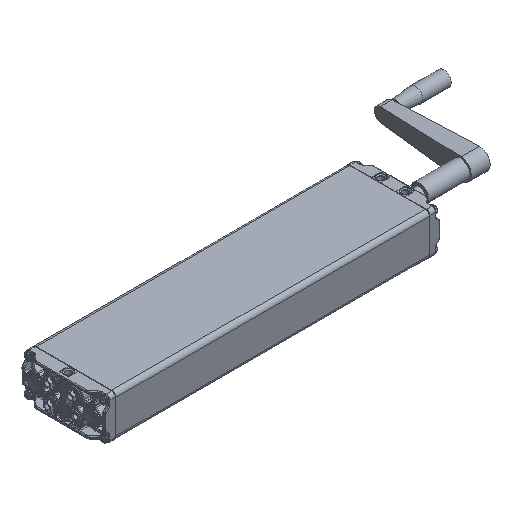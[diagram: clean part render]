
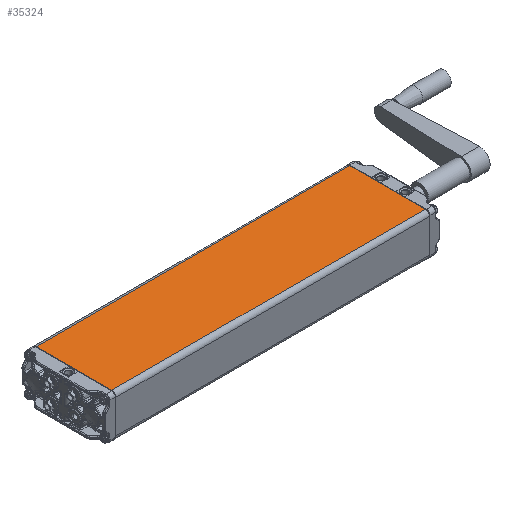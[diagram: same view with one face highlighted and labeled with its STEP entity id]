
A CAD part, isometric view. The second image highlights one B-rep face of the part: STEP entity #35324.
In plain terms, the highlighted planar face has unit normal (0, 0, 1).
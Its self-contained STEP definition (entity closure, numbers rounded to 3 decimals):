
#3673=LINE('',#75925,#5032);
#3674=LINE('',#75928,#5033);
#3675=LINE('',#75930,#5034);
#3676=LINE('',#75932,#5035);
#5032=VECTOR('',#43127,1000.);
#5033=VECTOR('',#43128,1000.);
#5034=VECTOR('',#43129,1000.);
#5035=VECTOR('',#43130,1000.);
#10645=ORIENTED_EDGE('',*,*,#16868,.T.);
#10646=ORIENTED_EDGE('',*,*,#16869,.T.);
#10647=ORIENTED_EDGE('',*,*,#16870,.T.);
#10648=ORIENTED_EDGE('',*,*,#16871,.T.);
#16868=EDGE_CURVE('',#20238,#20239,#3673,.F.);
#16869=EDGE_CURVE('',#20239,#20240,#3674,.T.);
#16870=EDGE_CURVE('',#20240,#20241,#3675,.T.);
#16871=EDGE_CURVE('',#20241,#20238,#3676,.F.);
#20238=VERTEX_POINT('',#75926);
#20239=VERTEX_POINT('',#75927);
#20240=VERTEX_POINT('',#75929);
#20241=VERTEX_POINT('',#75931);
#23921=EDGE_LOOP('',(#10645,#10646,#10647,#10648));
#26041=FACE_BOUND('',#23921,.T.);
#27239=PLANE('',#37774);
#35324=ADVANCED_FACE('',(#26041),#27239,.T.);
#37774=AXIS2_PLACEMENT_3D('',#75924,#43125,#43126);
#43125=DIRECTION('',(0.,0.,1.));
#43126=DIRECTION('',(1.,0.,0.));
#43127=DIRECTION('',(0.,-1.,0.));
#43128=DIRECTION('',(-1.,0.,0.));
#43129=DIRECTION('',(0.,-1.,0.));
#43130=DIRECTION('',(-1.,0.,0.));
#75924=CARTESIAN_POINT('',(60.,450.5,30.));
#75925=CARTESIAN_POINT('',(54.,450.5,30.));
#75926=CARTESIAN_POINT('',(54.,0.5,30.));
#75927=CARTESIAN_POINT('',(54.,450.,30.));
#75928=CARTESIAN_POINT('',(60.,450.,30.));
#75929=CARTESIAN_POINT('',(-54.,450.,30.));
#75930=CARTESIAN_POINT('',(-54.,450.5,30.));
#75931=CARTESIAN_POINT('',(-54.,0.5,30.));
#75932=CARTESIAN_POINT('',(54.,0.5,30.));
